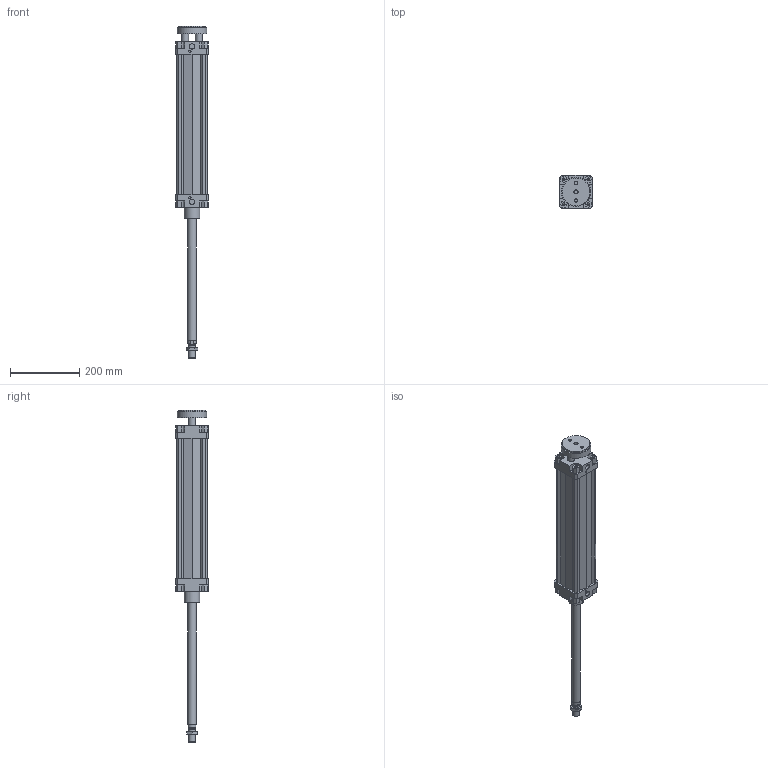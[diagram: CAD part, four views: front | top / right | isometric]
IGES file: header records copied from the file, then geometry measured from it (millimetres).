
Global section: file name: 132#_080_0350_02; native system: Autodesk Inventor 2014; preprocessor: unknown; author: A. Manieri; date: 20161006.162443; units: millimetre
Bounding box: 95 x 95 x 960 mm (x, y, z)
Volume: 2206991.7 mm3; surface area: 466106.4 mm2
Topology: 3 solids, 3 shells, 220 faces, 589 edges, 397 vertices
Faces by surface type: bspline 220
